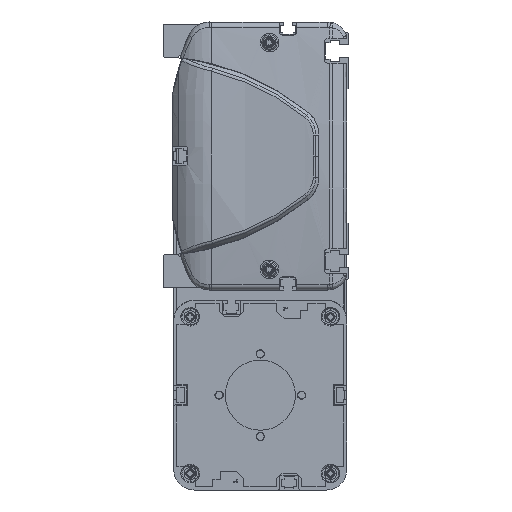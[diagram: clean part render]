
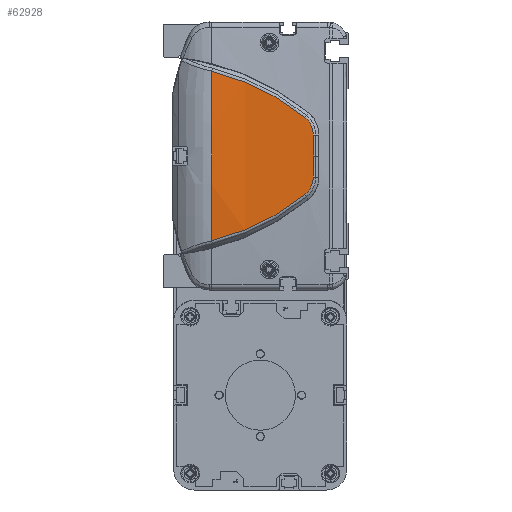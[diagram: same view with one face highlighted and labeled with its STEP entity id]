
A CAD part, left-side view. The second image highlights one B-rep face of the part: STEP entity #62928.
In plain terms, the highlighted cylindrical face has radius 500 mm (diameter 1000 mm), a partial arc.
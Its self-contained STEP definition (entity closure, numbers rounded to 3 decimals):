
#59164=CARTESIAN_POINT('',(-514.,66.962,0.));
#59165=DIRECTION('',(0.,-1.,0.));
#59166=DIRECTION('',(-0.997,0.,0.082));
#59167=AXIS2_PLACEMENT_3D('',#59164,#59165,#59166);
#60047=CARTESIAN_POINT('',(-1013.648,21.913,
-18.759));
#60048=CARTESIAN_POINT('',(-1013.449,28.504,
-24.058));
#60049=CARTESIAN_POINT('',(-1012.934,42.795,
-33.27));
#60050=CARTESIAN_POINT('',(-1012.471,58.756,
-39.127));
#60051=CARTESIAN_POINT('',(-1012.306,66.962,
-41.121));
#60053=CARTESIAN_POINT('',(-1012.306,66.962,
41.121));
#60054=CARTESIAN_POINT('',(-1012.471,58.756,
39.127));
#60055=CARTESIAN_POINT('',(-1012.934,42.795,
33.27));
#60056=CARTESIAN_POINT('',(-1013.449,28.504,
24.058));
#60057=CARTESIAN_POINT('',(-1013.648,21.913,
18.759));
#60059=CARTESIAN_POINT('',(-1013.648,21.913,
18.759));
#60060=CARTESIAN_POINT('',(-1013.686,20.635,
17.736));
#60061=CARTESIAN_POINT('',(-1013.779,18.536,
15.107));
#60062=CARTESIAN_POINT('',(-1013.863,17.752,
11.827));
#60063=CARTESIAN_POINT('',(-1013.896,17.724,
10.178));
#60065=CARTESIAN_POINT('',(-1013.896,17.724,
10.178));
#60066=CARTESIAN_POINT('',(-1013.92,17.707,
9.025));
#60067=CARTESIAN_POINT('',(-1013.959,17.667,
6.733));
#60068=CARTESIAN_POINT('',(-1013.993,17.58,
3.339));
#60069=CARTESIAN_POINT('',(-1014.,17.498,
1.108));
#60070=CARTESIAN_POINT('',(-1014.,17.449,
0.));
#60072=CARTESIAN_POINT('',(-1014.,17.449,
0.));
#60073=CARTESIAN_POINT('',(-1014.,17.498,
-1.108));
#60074=CARTESIAN_POINT('',(-1013.993,17.58,
-3.339));
#60075=CARTESIAN_POINT('',(-1013.959,17.667,
-6.732));
#60076=CARTESIAN_POINT('',(-1013.92,17.707,
-9.027));
#60077=CARTESIAN_POINT('',(-1013.896,17.724,
-10.18));
#60079=CARTESIAN_POINT('',(-1013.896,17.724,
-10.18));
#60080=CARTESIAN_POINT('',(-1013.863,17.752,
-11.828));
#60081=CARTESIAN_POINT('',(-1013.779,18.537,
-15.109));
#60082=CARTESIAN_POINT('',(-1013.686,20.635,
-17.736));
#60083=CARTESIAN_POINT('',(-1013.648,21.913,
-18.759));
#60750=VERTEX_POINT('',#60047);
#60751=VERTEX_POINT('',#60051);
#60752=CARTESIAN_POINT('',(-1012.306,66.962,
41.121));
#60753=VERTEX_POINT('',#60752);
#60754=VERTEX_POINT('',#60057);
#60755=VERTEX_POINT('',#60063);
#60756=VERTEX_POINT('',#60070);
#60757=VERTEX_POINT('',#60077);
#62909=CARTESIAN_POINT('',(-514.,8.606,0.));
#62910=DIRECTION('',(0.,1.,0.));
#62911=DIRECTION('',(1.,0.,0.));
#62912=AXIS2_PLACEMENT_3D('',#62909,#62910,#62911);
#62913=CYLINDRICAL_SURFACE('',#62912,500.);
#62915=ORIENTED_EDGE('',*,*,#62914,.T.);
#62916=ORIENTED_EDGE('',*,*,#61552,.F.);
#62918=ORIENTED_EDGE('',*,*,#62917,.T.);
#62920=ORIENTED_EDGE('',*,*,#62919,.T.);
#62922=ORIENTED_EDGE('',*,*,#62921,.T.);
#62924=ORIENTED_EDGE('',*,*,#62923,.T.);
#62925=ORIENTED_EDGE('',*,*,#62899,.T.);
#62926=EDGE_LOOP('',(#62915,#62916,#62918,#62920,#62922,#62924,#62925));
#62927=FACE_OUTER_BOUND('',#62926,.F.);
#62928=ADVANCED_FACE('',(#62927),#62913,.T.);
#59168=CIRCLE('',#59167,500.);
#60052=B_SPLINE_CURVE_WITH_KNOTS('',3,(#60047,#60048,#60049,#60050,#60051),
.UNSPECIFIED.,.F.,.F.,(4,1,4),(0.,0.5,1.),.UNSPECIFIED.);
#60058=B_SPLINE_CURVE_WITH_KNOTS('',3,(#60053,#60054,#60055,#60056,#60057),
.UNSPECIFIED.,.F.,.F.,(4,1,4),(0.,0.5,1.),.UNSPECIFIED.);
#60064=B_SPLINE_CURVE_WITH_KNOTS('',3,(#60059,#60060,#60061,#60062,#60063),
.UNSPECIFIED.,.F.,.F.,(4,1,4),(0.,0.5,1.),.UNSPECIFIED.);
#60071=B_SPLINE_CURVE_WITH_KNOTS('',3,(#60065,#60066,#60067,#60068,#60069,
#60070),.UNSPECIFIED.,.F.,.F.,(4,1,1,4),(0.,0.333,
0.667,1.),.UNSPECIFIED.);
#60078=B_SPLINE_CURVE_WITH_KNOTS('',3,(#60072,#60073,#60074,#60075,#60076,
#60077),.UNSPECIFIED.,.F.,.F.,(4,1,1,4),(0.,0.333,
0.667,1.),.UNSPECIFIED.);
#60084=B_SPLINE_CURVE_WITH_KNOTS('',3,(#60079,#60080,#60081,#60082,#60083),
.UNSPECIFIED.,.F.,.F.,(4,1,4),(0.,0.5,1.),.UNSPECIFIED.);
#61552=EDGE_CURVE('',#60753,#60751,#59168,.T.);
#62899=EDGE_CURVE('',#60757,#60750,#60084,.T.);
#62914=EDGE_CURVE('',#60750,#60751,#60052,.T.);
#62917=EDGE_CURVE('',#60753,#60754,#60058,.T.);
#62919=EDGE_CURVE('',#60754,#60755,#60064,.T.);
#62921=EDGE_CURVE('',#60755,#60756,#60071,.T.);
#62923=EDGE_CURVE('',#60756,#60757,#60078,.T.);
